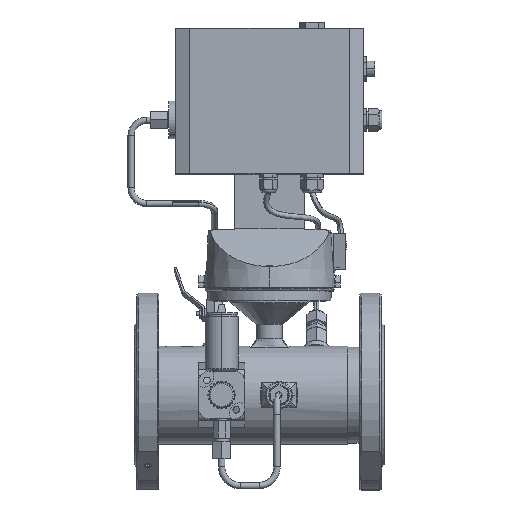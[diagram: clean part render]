
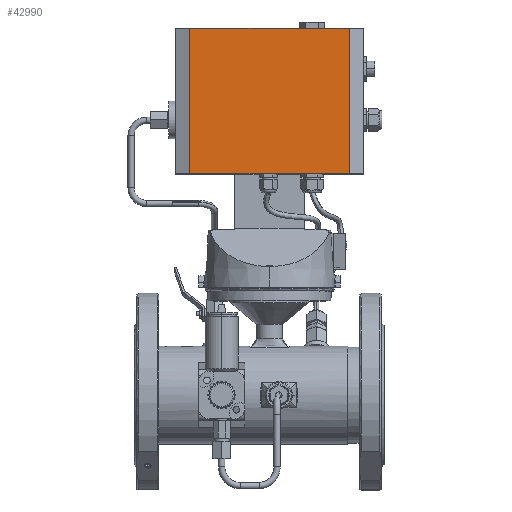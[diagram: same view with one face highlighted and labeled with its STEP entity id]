
A CAD part, top view. The second image highlights one B-rep face of the part: STEP entity #42990.
In plain terms, the highlighted planar face has unit normal (0, 0, 1).
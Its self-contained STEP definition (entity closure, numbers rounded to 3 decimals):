
#41382=DIRECTION('',(1.,0.,0.));
#41383=VECTOR('',#41382,152.988);
#41384=CARTESIAN_POINT('',(-76.494,-70.,37.5));
#41385=LINE('',#41384,#41383);
#41512=DIRECTION('',(1.,0.,0.));
#41513=VECTOR('',#41512,152.988);
#41514=CARTESIAN_POINT('',(-76.494,70.,37.5));
#41515=LINE('',#41514,#41513);
#41811=DIRECTION('',(0.,1.,0.));
#41812=VECTOR('',#41811,140.);
#41813=CARTESIAN_POINT('',(76.494,-70.,37.5));
#41814=LINE('',#41813,#41812);
#41818=DIRECTION('',(0.,1.,0.));
#41819=VECTOR('',#41818,140.);
#41820=CARTESIAN_POINT('',(-76.494,-70.,37.5));
#41821=LINE('',#41820,#41819);
#42076=CARTESIAN_POINT('',(-76.494,-70.,37.5));
#42078=VERTEX_POINT('',#42076);
#42079=CARTESIAN_POINT('',(76.494,-70.,37.5));
#42080=VERTEX_POINT('',#42079);
#42084=CARTESIAN_POINT('',(-76.494,70.,37.5));
#42086=VERTEX_POINT('',#42084);
#42087=CARTESIAN_POINT('',(76.494,70.,37.5));
#42088=VERTEX_POINT('',#42087);
#42979=CARTESIAN_POINT('',(-76.494,-70.,37.5));
#42980=DIRECTION('',(0.,0.,1.));
#42981=DIRECTION('',(1.,0.,0.));
#42982=AXIS2_PLACEMENT_3D('',#42979,#42980,#42981);
#42983=PLANE('',#42982);
#42984=ORIENTED_EDGE('',*,*,#42461,.F.);
#42985=ORIENTED_EDGE('',*,*,#42618,.T.);
#42986=ORIENTED_EDGE('',*,*,#42642,.T.);
#42987=ORIENTED_EDGE('',*,*,#42965,.F.);
#42988=EDGE_LOOP('',(#42984,#42985,#42986,#42987));
#42989=FACE_OUTER_BOUND('',#42988,.F.);
#42461=EDGE_CURVE('',#42078,#42080,#41385,.T.);
#42618=EDGE_CURVE('',#42078,#42086,#41821,.T.);
#42642=EDGE_CURVE('',#42086,#42088,#41515,.T.);
#42965=EDGE_CURVE('',#42080,#42088,#41814,.T.);
#42990=ADVANCED_FACE('',(#42989),#42983,.T.);
